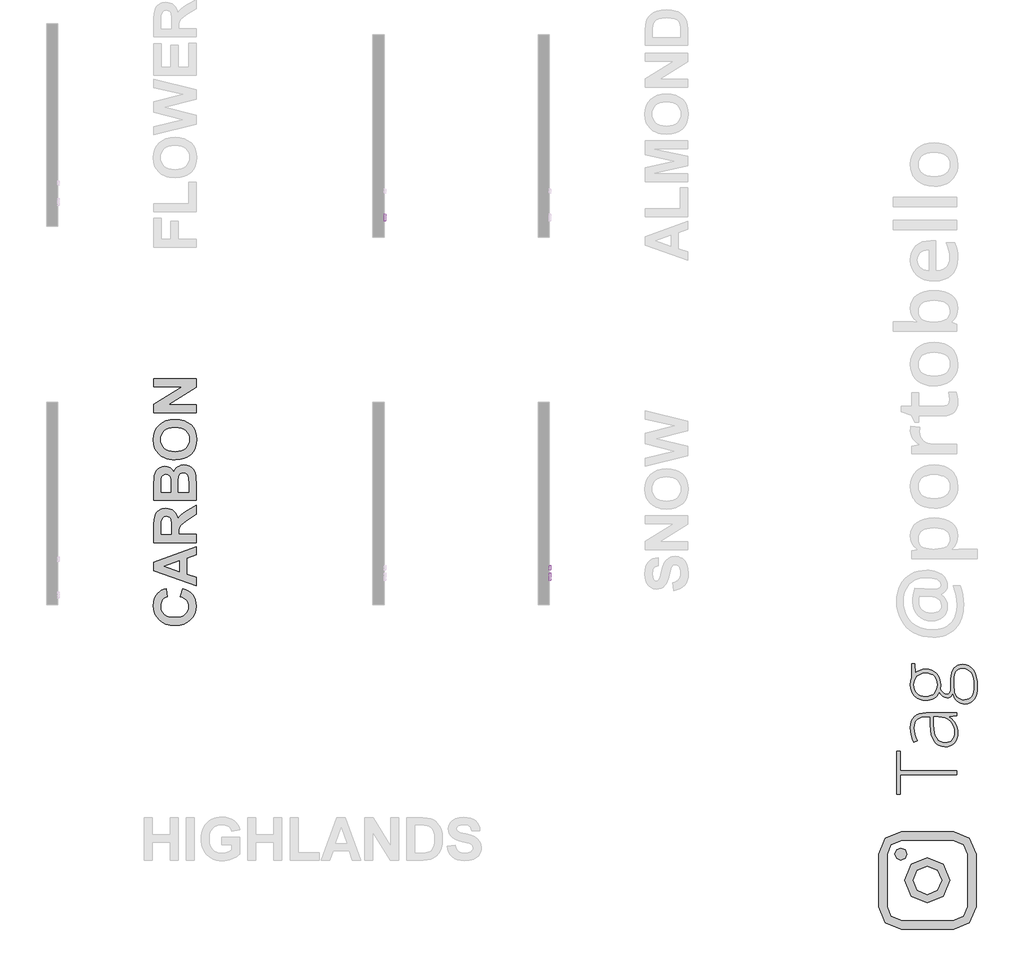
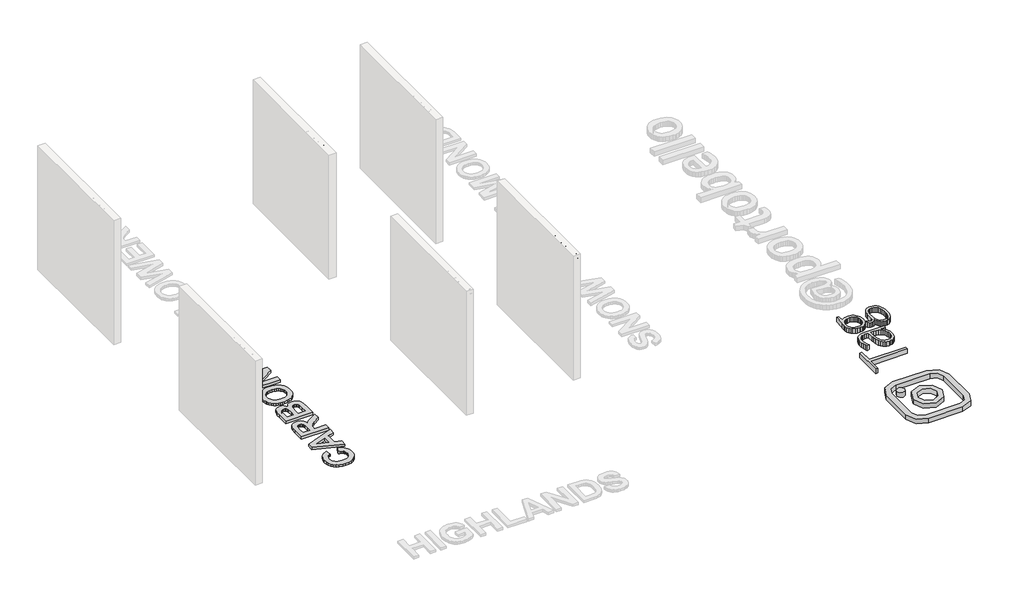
# One storey, part 4 of 10: 6 proxies.
"""IFC4 building model written with IfcOpenShell, lengths in millimetres."""

from ifc_helpers import new_model, si_unit, frame, origin, origin_with_axes, place, context, project, spatial, polyline, outline, extrude, transform, mapped, element, save
from components import generic_models_d67f6705

model = new_model("IFC4")

# Units and contexts
model_context = context("Model", 3, world=origin())
ifc_project = project(units=[si_unit("LENGTHUNIT", "METRE", prefix="MILLI")], contexts=[model_context])

# Site, building, storey
site = spatial("IfcSite", under=ifc_project)
building = spatial("IfcBuilding", under=site)
storey = spatial("IfcBuildingStorey", under=building, Name="PORTOBELLO - SHOWROOM", Elevation=0.0)

# Proxies
placement = place(None, origin())
generic_models_shape = generic_models_d67f6705(model_context)
element("IfcBuildingElementProxy", 1, Name="Blks_Instagram1 : Único 2", ObjectType="Blks_Instagram1 : Único 2", at=placement, inside=storey, context=model_context, shape_type="MappedRepresentation", body=[
    mapped(generic_models_shape, transform((-18689.4048077, -12968.2161352, 0.0), x_axis=(-1.0, 0.0, 0.0), y_axis=(0.0, -1.0, 0.0), z_axis=(0.0, 0.0, 1.0))),
])
element("IfcBuildingElementProxy", 2, Name="10mm Arial", ObjectType="10mm Arial", at=placement, inside=storey, context=model_context, shape_type="SweptSolid", body=[
    extrude(outline(polyline([(-9212.6514149, 2553.0064243), (-9200.0943761, 2553.0064243), (-9196.0476742, 2540.4371228), (-9186.1639112, 2532.4908717), (-9171.1052749, 2529.4619766), (-9157.9841504, 2531.7551077), (-9149.5106018, 2538.0581525), (-9146.7269614, 2546.4826502), (-9148.811626, 2554.3185367), (-9157.3464883, 2560.0207077), (-9175.6302235, 2564.8154363), (-9195.3119102, 2571.0081166), (-9205.9927508, 2580.3523193), (-9209.5121552, 2592.8357816), (-9205.1588849, 2607.0482894), (-9192.4424306, 2617.0792051), (-9173.8276017, 2620.5005077), (-9153.9619739, 2616.9197896), (-9140.7182221, 2606.3983645), (-9135.7395524, 2590.6775406), (-9148.2965912, 2590.6775406), (-9150.601985, 2598.1700706), (-9155.4089765, 2603.5779359), (-9173.3370924, 2607.9434689), (-9191.3142592, 2603.6269868), (-9196.9551164, 2593.2036636), (-9192.9574654, 2584.4971231), (-9172.4541756, 2577.4828397), (-9150.2341031, 2571.1797948), (-9138.0817345, 2561.0017263), (-9134.1699226, 2546.8014813), (-9138.6703457, 2531.7796332), (-9151.6197919, 2520.8167497), (-9170.6147656, 2516.9049378), (-9193.0433046, 2521.123318), (-9207.2312868, 2533.8275096), (-9212.6514149, 2553.0064243)])), frame((-23726.2609603, 0.0, 0.0), z_axis=(1.0, 0.0, 0.0), x_axis=(0.0, 1.0, 0.0)), (0.0, 0.0, 1.0), 20.0),
    extrude(outline(polyline([(-9116.9039943, 2518.4745677), (-9116.9039943, 2592.2471704), (-9104.3469555, 2592.2471704), (-9104.3469555, 2581.9464746), (-9094.7452354, 2590.8492188), (-9081.6363737, 2593.8168003), (-9069.7783107, 2591.4255673), (-9061.6849068, 2585.1470479), (-9057.9202477, 2575.9132098), (-9057.2580601, 2563.773104), (-9057.2580601, 2518.4745677), (-9069.8150989, 2518.4745677), (-9069.8150989, 2562.0808468), (-9071.2621014, 2573.1908831), (-9076.3756612, 2579.0647323), (-9084.9963626, 2581.2597615), (-9098.6202591, 2576.3301428), (-9102.9152814, 2569.1871007), (-9104.3469555, 2557.6172119), (-9104.3469555, 2518.4745677), (-9116.9039943, 2518.4745677)])), frame((-23726.2609603, 0.0, 0.0), z_axis=(1.0, 0.0, 0.0), x_axis=(0.0, 1.0, 0.0)), (0.0, 0.0, 1.0), 20.0),
    extrude(outline(polyline([(-9043.1313915, 2555.360869), (-9040.4151961, 2573.1479635), (-9032.2666099, 2585.64982), (-9022.198906, 2591.7750552), (-9010.1446393, 2593.8168003), (-8996.9530041, 2591.3305311), (-8986.4162506, 2583.8717237), (-8979.5092661, 2572.0289891), (-8977.206938, 2556.3909386), (-8981.2781654, 2534.0482388), (-8993.1362284, 2521.4053609), (-9010.1446393, 2516.9049378), (-9023.49569, 2519.3820099), (-9034.0201808, 2526.8132262), (-9040.8535888, 2538.9042811), (-9043.1313915, 2555.360869)]), holes=[polyline([(-9030.5743528, 2555.3853945), (-9029.1212189, 2544.0209065), (-9024.7618172, 2535.924437), (-9018.201255, 2531.0775917), (-9010.1446393, 2529.4619766), (-9002.1248118, 2531.0867887), (-8995.5765123, 2535.9612252), (-8991.2171106, 2544.1649937), (-8989.7639768, 2555.777802), (-8991.2263077, 2566.8111961), (-8995.6133005, 2574.7973011), (-9002.170797, 2579.6441464), (-9010.1446393, 2581.2597615), (-9018.201255, 2579.6502778), (-9024.7618172, 2574.8218266), (-9029.1212189, 2566.7437511), (-9030.5743528, 2555.3853945)])]), frame((-23726.2609603, 0.0, 0.0), z_axis=(1.0, 0.0, 0.0), x_axis=(0.0, 1.0, 0.0)), (0.0, 0.0, 1.0), 20.0),
    extrude(outline(polyline([(-8950.8420617, 2518.4745677), (-8973.2828634, 2592.2471704), (-8960.2353153, 2592.2471704), (-8947.5065982, 2549.204977), (-8943.705151, 2533.8275096), (-8940.5904167, 2548.6408913), (-8930.4613991, 2592.2471704), (-8915.5008647, 2592.2471704), (-8905.420898, 2548.7635186), (-8902.6495203, 2535.3480885), (-8898.6763948, 2549.4992826), (-8885.9231523, 2592.2471704), (-8872.8265532, 2592.2471704), (-8895.4390332, 2518.4745677), (-8910.6202969, 2518.4745677), (-8920.2588051, 2561.7374903), (-8923.0547083, 2575.2264968), (-8935.4891197, 2518.4745677), (-8950.8420617, 2518.4745677)])), frame((-23726.2609603, 0.0, 0.0), z_axis=(1.0, 0.0, 0.0), x_axis=(0.0, 1.0, 0.0)), (0.0, 0.0, 1.0), 20.0),
])
element("IfcBuildingElementProxy", 3, Name="10mm Arial", ObjectType="10mm Arial", at=placement, inside=storey, context=model_context, shape_type="SweptSolid", body=[
    extrude(outline(polyline([(-4319.6411728, 2518.4745677), (-4279.5420353, 2618.9308778), (-4268.848932, 2618.9308778), (-4228.7497945, 2518.4745677), (-4242.0180718, 2518.4745677), (-4253.5205155, 2549.8671646), (-4294.8949773, 2549.8671646), (-4306.3728955, 2518.4745677), (-4319.6411728, 2518.4745677)]), holes=[polyline([(-4290.2841896, 2562.4242034), (-4258.1067778, 2562.4242034), (-4267.1566748, 2587.121348), (-4274.1954837, 2606.373839), (-4280.4494776, 2589.279589), (-4290.2841896, 2562.4242034)])]), frame((-25926.2609603, 0.0, 0.0), z_axis=(1.0, 0.0, 0.0), x_axis=(0.0, 1.0, 0.0)), (0.0, 0.0, 1.0), 20.0),
    extrude(outline(polyline([(-25906.2609603, -4204.3469555), (-25906.2609603, -4216.9039943), (-25926.2609603, -4216.9039943), (-25926.2609603, -4204.3469555), (-25906.2609603, -4204.3469555)])), frame((0.0, 0.0, 2518.4745677), z_axis=(0.0, 0.0, 1.0), x_axis=(1.0, 0.0, 0.0)), (0.0, 0.0, 1.0), 100.4563101),
    extrude(outline(polyline([(-4185.5113974, 2518.4745677), (-4185.5113974, 2592.2471704), (-4172.9543586, 2592.2471704), (-4172.9543586, 2580.1070646), (-4164.3213944, 2590.0521412), (-4152.0341358, 2593.8168003), (-4139.4525716, 2589.9785648), (-4132.5363901, 2579.2241478), (-4122.7384663, 2590.1686372), (-4110.3653685, 2593.8168003), (-4100.9261296, 2592.299287), (-4093.9455688, 2587.7467474), (-4089.6321524, 2580.0365539), (-4088.1943469, 2569.0460793), (-4088.1943469, 2518.4745677), (-4100.7513857, 2518.4745677), (-4100.7513857, 2563.6504767), (-4101.9163453, 2574.1351135), (-4106.1347255, 2579.2977242), (-4113.3084244, 2581.2597615), (-4125.6569968, 2576.2320409), (-4129.3450138, 2569.6898728), (-4130.5743528, 2560.1188095), (-4130.5743528, 2518.4745677), (-4143.1313915, 2518.4745677), (-4143.1313915, 2565.0484283), (-4146.0376593, 2577.2130596), (-4155.565803, 2581.2597615), (-4164.8609547, 2578.5619602), (-4171.0413722, 2570.66476), (-4172.9543586, 2555.6797001), (-4172.9543586, 2518.4745677), (-4185.5113974, 2518.4745677)])), frame((-25926.2609603, 0.0, 0.0), z_axis=(1.0, 0.0, 0.0), x_axis=(0.0, 1.0, 0.0)), (0.0, 0.0, 1.0), 20.0),
    extrude(outline(polyline([(-4072.4980485, 2555.360869), (-4069.7818531, 2573.1479635), (-4061.6332669, 2585.64982), (-4051.5655629, 2591.7750552), (-4039.5112962, 2593.8168003), (-4026.319661, 2591.3305311), (-4015.7829075, 2583.8717237), (-4008.8759231, 2572.0289891), (-4006.5735949, 2556.3909386), (-4010.6448223, 2534.0482388), (-4022.5028853, 2521.4053609), (-4039.5112962, 2516.9049378), (-4052.862347, 2519.3820099), (-4063.3868377, 2526.8132262), (-4070.2202458, 2538.9042811), (-4072.4980485, 2555.360869)]), holes=[polyline([(-4059.9410097, 2555.3853945), (-4058.4878758, 2544.0209065), (-4054.1284742, 2535.924437), (-4047.5679119, 2531.0775917), (-4039.5112962, 2529.4619766), (-4031.4914687, 2531.0867887), (-4024.9431692, 2535.9612252), (-4020.5837676, 2544.1649937), (-4019.1306337, 2555.777802), (-4020.5929646, 2566.8111961), (-4024.9799574, 2574.7973011), (-4031.537454, 2579.6441464), (-4039.5112962, 2581.2597615), (-4047.5679119, 2579.6502778), (-4054.1284742, 2574.8218266), (-4058.4878758, 2566.7437511), (-4059.9410097, 2555.3853945)])]), frame((-25926.2609603, 0.0, 0.0), z_axis=(1.0, 0.0, 0.0), x_axis=(0.0, 1.0, 0.0)), (0.0, 0.0, 1.0), 20.0),
    extrude(outline(polyline([(-3992.4469263, 2518.4745677), (-3992.4469263, 2592.2471704), (-3979.8898875, 2592.2471704), (-3979.8898875, 2581.9464746), (-3970.2881675, 2590.8492188), (-3957.1793057, 2593.8168003), (-3945.3212427, 2591.4255673), (-3937.2278388, 2585.1470479), (-3933.4631797, 2575.9132098), (-3932.8009921, 2563.773104), (-3932.8009921, 2518.4745677), (-3945.3580309, 2518.4745677), (-3945.3580309, 2562.0808468), (-3946.8050334, 2573.1908831), (-3951.9185932, 2579.0647323), (-3960.5392946, 2581.2597615), (-3974.1631911, 2576.3301428), (-3978.4582134, 2569.1871007), (-3979.8898875, 2557.6172119), (-3979.8898875, 2518.4745677), (-3992.4469263, 2518.4745677)])), frame((-25926.2609603, 0.0, 0.0), z_axis=(1.0, 0.0, 0.0), x_axis=(0.0, 1.0, 0.0)), (0.0, 0.0, 1.0), 20.0),
    extrude(outline(polyline([(-3870.0157983, 2518.4745677), (-3870.0157983, 2530.3203679), (-3878.3238, 2520.2587953), (-3889.8078496, 2516.9049378), (-3905.3569953, 2521.7609802), (-3916.3444042, 2535.3113003), (-3920.2439534, 2555.2872926), (-3916.6509726, 2575.2755477), (-3905.8842928, 2589.0343343), (-3889.8569006, 2593.8168003), (-3878.2808805, 2590.3954977), (-3870.0157983, 2581.5050162), (-3870.0157983, 2618.9308778), (-3857.4587595, 2618.9308778), (-3857.4587595, 2518.4745677), (-3870.0157983, 2518.4745677)]), holes=[polyline([(-3907.6869146, 2555.3363436), (-3906.2705689, 2543.977987), (-3902.0215319, 2535.8999115), (-3895.8472457, 2531.0714603), (-3888.6551527, 2529.4619766), (-3881.4661254, 2530.9978839), (-3875.4481891, 2535.6056059), (-3871.373896, 2543.3709817), (-3870.0157983, 2554.3798504), (-3871.3984215, 2566.415723), (-3875.546291, 2574.7605129), (-3881.7175114, 2579.6349494), (-3889.1701875, 2581.2597615), (-3896.4358569, 2579.6993287), (-3902.3894139, 2575.0180303), (-3906.3625394, 2566.976743), (-3907.6869146, 2555.3363436)])]), frame((-25926.2609603, 0.0, 0.0), z_axis=(1.0, 0.0, 0.0), x_axis=(0.0, 1.0, 0.0)), (0.0, 0.0, 1.0), 20.0),
])
element("IfcBuildingElementProxy", 4, Name="10mm Arial Narrow", ObjectType="10mm Arial Narrow", at=placement, inside=storey, context=model_context, shape_type="SweptSolid", body=[
    extrude(outline(polyline([(-8835.6286257, 2518.4745677), (-8835.6286257, 2619.1931714), (-8804.3317411, 2619.1931714), (-8788.0360395, 2617.3148507), (-8776.5630534, 2607.8344075), (-8772.273375, 2590.8152987), (-8774.0596834, 2578.7394731), (-8779.4186086, 2569.1130794), (-8789.1623974, 2562.811821), (-8804.1032966, 2560.7114015), (-8825.8816641, 2560.7114015), (-8825.8816641, 2518.4745677), (-8835.6286257, 2518.4745677)]), holes=[polyline([(-8825.8816641, 2572.0828568), (-8802.9103091, 2572.0828568), (-8787.0461137, 2576.613671), (-8782.0203366, 2590.2822617), (-8784.4951511, 2600.4480381), (-8790.47278, 2606.247988), (-8803.1387536, 2607.8217162), (-8825.8816641, 2607.8217162), (-8825.8816641, 2572.0828568)])]), frame((-23726.2609603, 0.0, 0.0), z_axis=(1.0, 0.0, 0.0), x_axis=(0.0, 1.0, 0.0)), (0.0, 0.0, 1.0), 20.0),
    extrude(outline(polyline([(-8764.1509069, 2555.0256739), (-8762.1964381, 2571.6164494), (-8756.3330315, 2583.5685342), (-8747.4744647, 2590.7930888), (-8736.5345156, 2593.2012737), (-8725.72148, 2590.7930888), (-8716.8375306, 2583.5685342), (-8710.8979758, 2571.8068198), (-8708.9181242, 2555.7871552), (-8710.8630746, 2538.6252687), (-8716.6979257, 2526.4828135), (-8725.5469739, 2519.2582589), (-8736.5345156, 2516.8500741), (-8747.3951438, 2519.2646046), (-8756.2695747, 2526.5081962), (-8762.1805739, 2538.4666267), (-8764.1509069, 2555.0256739)]), holes=[polyline([(-8754.4039453, 2555.0510566), (-8753.0999084, 2542.4993052), (-8749.1877978, 2533.6280471), (-8743.3466011, 2528.3547886), (-8736.2553058, 2526.5970357), (-8729.5352326, 2528.3706528), (-8723.8431593, 2533.6915039), (-8719.9596042, 2542.5786262), (-8718.6650859, 2555.0510566), (-8719.9691228, 2567.5647339), (-8723.8812333, 2576.4233006), (-8729.7224301, 2581.6965592), (-8736.8137254, 2583.454312), (-8743.5813912, 2581.6870407), (-8749.263946, 2576.3852265), (-8753.1189455, 2567.5171413), (-8754.4039453, 2555.0510566)])]), frame((-23726.2609603, 0.0, 0.0), z_axis=(1.0, 0.0, 0.0), x_axis=(0.0, 1.0, 0.0)), (0.0, 0.0, 1.0), 20.0),
    extrude(outline(polyline([(-8637.4404054, 2526.5970357), (-8635.8159118, 2516.8500741), (-8643.1768985, 2516.8500741), (-8651.4516628, 2518.9695306), (-8655.766724, 2524.7694804), (-8656.9343288, 2539.4153056), (-8656.9343288, 2581.8298184), (-8665.0567968, 2581.8298184), (-8665.0567968, 2585.0788056), (-8666.6812904, 2580.2053248), (-8674.2453388, 2581.8298184), (-8680.3244985, 2579.5073002), (-8684.1953621, 2573.0220171), (-8686.1752137, 2557.6147106), (-8686.1752137, 2518.4745677), (-8695.9221754, 2518.4745677), (-8695.9221754, 2591.5767801), (-8686.1752137, 2591.5767801), (-8686.1752137, 2581.8805838), (-8679.9310664, 2590.967595), (-8673.5346228, 2593.2012737), (-8665.0567968, 2591.5767801), (-8656.9343288, 2591.5767801), (-8656.9343288, 2607.8217162), (-8647.1873671, 2615.9441842), (-8647.1873671, 2591.5767801), (-8637.4404054, 2591.5767801), (-8637.4404054, 2581.8298184), (-8647.1873671, 2581.8298184), (-8647.1873671, 2537.1816269), (-8646.3243549, 2529.1860724), (-8641.7047012, 2526.5970357), (-8637.4404054, 2526.5970357)])), frame((-23726.2609603, 0.0, 0.0), z_axis=(1.0, 0.0, 0.0), x_axis=(0.0, 1.0, 0.0)), (0.0, 0.0, 1.0), 20.0),
    extrude(outline(polyline([(-8630.942431, 2555.0256739), (-8628.9879621, 2571.6164494), (-8623.1245555, 2583.5685342), (-8614.2659888, 2590.7930888), (-8603.3260397, 2593.2012737), (-8592.5130041, 2590.7930888), (-8583.6290547, 2583.5685342), (-8577.6894999, 2571.8068198), (-8575.7096483, 2555.7871552), (-8577.6545987, 2538.6252687), (-8583.4894497, 2526.4828135), (-8592.3384979, 2519.2582589), (-8603.3260397, 2516.8500741), (-8614.1866678, 2519.2646046), (-8623.0610987, 2526.5081962), (-8628.9720979, 2538.4666267), (-8630.942431, 2555.0256739)]), holes=[polyline([(-8621.1954694, 2555.0510566), (-8619.8914325, 2542.4993052), (-8615.9793219, 2533.6280471), (-8610.1381252, 2528.3547886), (-8603.0468298, 2526.5970357), (-8596.3267567, 2528.3706528), (-8590.6346833, 2533.6915039), (-8586.7511283, 2542.5786262), (-8585.45661, 2555.0510566), (-8586.7606468, 2567.5647339), (-8590.6727574, 2576.4233006), (-8596.5139542, 2581.6965592), (-8603.6052495, 2583.454312), (-8610.3729153, 2581.6870407), (-8616.05547, 2576.3852265), (-8619.9104695, 2567.5171413), (-8621.1954694, 2555.0510566)])]), frame((-23726.2609603, 0.0, 0.0), z_axis=(1.0, 0.0, 0.0), x_axis=(0.0, 1.0, 0.0)), (0.0, 0.0, 1.0), 20.0),
    extrude(outline(polyline([(-8552.9667378, 2518.4745677), (-8562.7136994, 2518.4745677), (-8562.7136994, 2619.1931714), (-8552.9667378, 2619.1931714), (-8552.9667378, 2583.7842873), (-8545.5676771, 2590.8660641), (-8536.3664437, 2593.2012737), (-8523.4847171, 2589.0004347), (-8514.2073356, 2576.2710043), (-8510.729904, 2555.5840935), (-8512.662163, 2539.1297501), (-8518.45894, 2526.927011), (-8526.8320623, 2519.3693083), (-8536.4933573, 2516.8500741), (-8545.8341955, 2519.4644935), (-8552.9667378, 2527.2316035), (-8552.9667378, 2518.4745677)]), holes=[polyline([(-8552.9667378, 2555.5840935), (-8550.8853553, 2538.3365403), (-8544.996566, 2529.6048872), (-8536.5441227, 2526.5970357), (-8530.6013951, 2528.3865169), (-8525.3630378, 2533.7549607), (-8520.4768656, 2555.1779701), (-8525.1853588, 2576.613671), (-8530.4300618, 2581.7441518), (-8536.7471844, 2583.454312), (-8542.7248132, 2581.6648308), (-8548.0171088, 2576.2963871), (-8552.9667378, 2555.5840935)])]), frame((-23726.2609603, 0.0, 0.0), z_axis=(1.0, 0.0, 0.0), x_axis=(0.0, 1.0, 0.0)), (0.0, 0.0, 1.0), 20.0),
    extrude(outline(polyline([(-8458.7461085, 2541.2174782), (-8448.9991468, 2539.5929846), (-8452.6986772, 2529.706418), (-8458.5176641, 2522.5865671), (-8466.2213173, 2518.2841973), (-8475.5748469, 2516.8500741), (-8487.1684009, 2519.2646046), (-8496.3125232, 2526.5081962), (-8502.2520779, 2538.3143304), (-8504.2319295, 2554.4164888), (-8502.2425594, 2571.0834124), (-8496.2744491, 2583.2639417), (-8487.2604133, 2590.7169407), (-8476.1332666, 2593.2012737), (-8465.4503174, 2590.8026073), (-8456.7028001, 2583.6066083), (-8450.867949, 2571.8671037), (-8448.9229987, 2555.8379207), (-8448.9991468, 2552.5889335), (-8494.4849679, 2552.5889335), (-8488.4819563, 2533.1457756), (-8482.5519201, 2528.2342207), (-8475.4479334, 2526.5970357), (-8465.2694656, 2530.2521463), (-8458.7461085, 2541.2174782)]), holes=[polyline([(-8493.8250173, 2562.3358951), (-8458.7461085, 2562.3358951), (-8463.0104042, 2576.6009796), (-8468.8357367, 2581.7409789), (-8476.0571185, 2583.454312), (-8488.2662033, 2577.7432017), (-8493.8250173, 2562.3358951)])]), frame((-23726.2609603, 0.0, 0.0), z_axis=(1.0, 0.0, 0.0), x_axis=(0.0, 1.0, 0.0)), (0.0, 0.0, 1.0), 20.0),
    extrude(outline(polyline([(-23706.2609603, -8426.2562363), (-23706.2609603, -8436.0031979), (-23726.2609603, -8436.0031979), (-23726.2609603, -8426.2562363), (-23706.2609603, -8426.2562363)])), frame((0.0, 0.0, 2518.4745677), z_axis=(0.0, 0.0, 1.0), x_axis=(1.0, 0.0, 0.0)), (0.0, 0.0, 1.0), 100.7186038),
    extrude(outline(polyline([(-23706.2609603, -8400.2643385), (-23706.2609603, -8410.0113002), (-23726.2609603, -8410.0113002), (-23726.2609603, -8400.2643385), (-23706.2609603, -8400.2643385)])), frame((0.0, 0.0, 2518.4745677), z_axis=(0.0, 0.0, 1.0), x_axis=(1.0, 0.0, 0.0)), (0.0, 0.0, 1.0), 100.7186038),
    extrude(outline(polyline([(-8388.8928833, 2555.0256739), (-8386.9384144, 2571.6164494), (-8381.0750078, 2583.5685342), (-8372.2164411, 2590.7930888), (-8361.2764919, 2593.2012737), (-8350.4634563, 2590.7930888), (-8341.5795069, 2583.5685342), (-8335.6399522, 2571.8068198), (-8333.6601006, 2555.7871552), (-8335.6050509, 2538.6252687), (-8341.439902, 2526.4828135), (-8350.2889502, 2519.2582589), (-8361.2764919, 2516.8500741), (-8372.1371201, 2519.2646046), (-8381.011551, 2526.5081962), (-8386.9225502, 2538.4666267), (-8388.8928833, 2555.0256739)]), holes=[polyline([(-8379.1459216, 2555.0510566), (-8377.8418848, 2542.4993052), (-8373.9297742, 2533.6280471), (-8368.0885774, 2528.3547886), (-8360.9972821, 2526.5970357), (-8354.2772089, 2528.3706528), (-8348.5851356, 2533.6915039), (-8344.7015806, 2542.5786262), (-8343.4070622, 2555.0510566), (-8344.7110991, 2567.5647339), (-8348.6232097, 2576.4233006), (-8354.4644064, 2581.6965592), (-8361.5557018, 2583.454312), (-8368.3233675, 2581.6870407), (-8374.0059223, 2576.3852265), (-8377.8609218, 2567.5171413), (-8379.1459216, 2555.0510566)])]), frame((-23726.2609603, 0.0, 0.0), z_axis=(1.0, 0.0, 0.0), x_axis=(0.0, 1.0, 0.0)), (0.0, 0.0, 1.0), 20.0),
])
element("IfcBuildingElementProxy", 5, Name="550mm Arial", ObjectType="550mm Arial", at=placement, inside=storey, context=model_context, shape_type="SweptSolid", body=[
    extrude(outline(polyline([(-28646.6512736, -9187.8497466), (-28611.0231676, -9080.9654285), (-28568.7626322, -9095.7263894), (-28532.3038416, -9114.6799155), (-28501.6467957, -9137.8260069), (-28476.7914947, -9165.1646634), (-28457.5813697, -9196.5828077), (-28443.8598518, -9231.9673622), (-28435.626941, -9271.318327), (-28432.8826375, -9314.635702), (-28437.571004, -9368.1561455), (-28451.6361034, -9416.683783), (-28475.0779359, -9460.2186148), (-28507.8965013, -9498.7606406), (-28548.8479474, -9530.3005606), (-28596.6884218, -9552.8290749), (-28651.4179246, -9566.3461835), (-28713.0364556, -9570.8518864), (-28778.0125181, -9566.3070413), (-28835.2993116, -9552.6725061), (-28884.8968362, -9529.9482808), (-28926.8050918, -9498.1343653), (-28960.1107602, -9458.9095254), (-28983.9005234, -9413.9525269), (-28998.1743813, -9363.2633697), (-29002.932334, -9306.8420538), (-28999.0094151, -9257.5054773), (-28987.2406583, -9213.0399309), (-28967.6260638, -9173.4454146), (-28940.1656315, -9138.7219285), (-28919.6290206, -9120.6556257), (-28895.0390168, -9105.0074414), (-28866.39562, -9091.7773757), (-28833.6988303, -9080.9654285), (-28815.8847773, -9187.8497466), (-28835.4602296, -9194.5865552), (-28852.8524166, -9204.2198871), (-28868.0613383, -9216.7497422), (-28881.0869948, -9232.1761207), (-28891.5292656, -9249.9597297), (-28898.9880305, -9269.5612768), (-28903.4632894, -9290.980762), (-28904.9550424, -9314.2181851), (-28902.2455319, -9345.979911), (-28894.1170003, -9374.6015621), (-28880.5694478, -9400.0831384), (-28861.6028743, -9422.42464), (-28836.5736079, -9440.5996711), (-28804.8379768, -9453.5818362), (-28766.3959811, -9461.3711353), (-28721.2476206, -9463.9675683), (-28673.4593359, -9461.4494197), (-28633.0819755, -9453.8949739), (-28600.1155395, -9441.3042308), (-28574.5600279, -9423.6771906), (-28555.4412346, -9402.0141539), (-28541.7849538, -9377.3154217), (-28533.5911852, -9349.580994), (-28530.8599291, -9318.8108707), (-28532.6039318, -9295.9039817), (-28537.83594, -9274.6410654), (-28546.5559538, -9255.0221218), (-28558.763973, -9237.0471508), (-28574.7209458, -9221.1075745), (-28594.6878202, -9207.5948151), (-28618.6645961, -9196.5088724), (-28646.6512736, -9187.8497466)])), origin_with_axes(), (0.0, 0.0, 1.0), 50.0),
    extrude(outline(polyline([(-28432.8826375, -8519.8227585), (-28432.8826375, -8632.1347959), (-28557.5810086, -8676.1132392), (-28557.5810086, -8888.0726357), (-28432.8826375, -8931.4943899), (-28432.8826375, -9045.3373224), (-28994.0253074, -8840.4757128), (-28994.0253074, -8726.6327802), (-28432.8826375, -8519.8227585)]), holes=[polyline([(-28655.5583002, -8710.3496224), (-28860.4199098, -8782.5800405), (-28655.5583002, -8853.8362525), (-28655.5583002, -8710.3496224)])]), origin_with_axes(), (0.0, 0.0, 1.0), 50.0),
    extrude(outline(polyline([(-28432.8826375, -8466.3805994), (-28994.0253074, -8466.3805994), (-28994.0253074, -8230.344397), (-28990.2328626, -8153.4517072), (-28978.8555279, -8100.9141681), (-28969.7919326, -8081.7431852), (-28957.7709261, -8064.5902006), (-28942.7925085, -8049.4552141), (-28924.8566797, -8036.3382259), (-28904.7375857, -8025.7437354), (-28883.2093722, -8018.1762421), (-28860.2720393, -8013.6357462), (-28835.9255869, -8012.1222476), (-28805.5773296, -8014.309862), (-28777.9951216, -8020.8727052), (-28753.1789627, -8031.8107773), (-28731.1288532, -8047.1240783), (-28712.3753872, -8066.7952115), (-28697.4491592, -8090.8067806), (-28686.3501691, -8119.1587853), (-28679.078417, -8151.8512259), (-28656.7412646, -8120.8505985), (-28632.3165279, -8095.7647934), (-28596.9319733, -8069.8091614), (-28541.7153676, -8036.1990536), (-28432.8826375, -7967.587115), (-28432.8826375, -8092.4246584), (-28561.0603158, -8173.7012753), (-28637.1179718, -8237.5117699), (-28650.3219428, -8255.2214437), (-28658.6200905, -8273.9749097), (-28663.0040176, -8298.8693529), (-28664.4653267, -8335.0019585), (-28664.4653267, -8359.4962814), (-28432.8826375, -8359.4962814), (-28432.8826375, -8466.3805994)]), holes=[polyline([(-28762.4426182, -8359.4962814), (-28762.4426182, -8271.4002223), (-28764.0604961, -8201.8662673), (-28768.9141297, -8164.4463181), (-28777.716777, -8145.4145075), (-28791.181696, -8131.0449687), (-28808.9435594, -8122.0161664), (-28830.6370399, -8119.0065656), (-28854.6616564, -8122.9729759), (-28873.5716912, -8134.8722066), (-28886.9148344, -8154.0083964), (-28894.2387761, -8179.6856837), (-28896.0480159, -8266.5291922), (-28896.0480159, -8359.4962814), (-28762.4426182, -8359.4962814)])]), origin_with_axes(), (0.0, 0.0, 1.0), 50.0),
    extrude(outline(polyline([(-28994.0253074, -7905.2379295), (-28994.0253074, -7674.9077909), (-28992.6335846, -7615.2550684), (-28988.4584159, -7572.964089), (-28979.8471305, -7541.1284279), (-28965.1470574, -7512.8416601), (-28944.4799725, -7488.5386991), (-28917.9676514, -7468.6544583), (-28886.740869, -7455.3982978), (-28851.9304002, -7450.9795776), (-28814.0059514, -7456.250728), (-28779.2824652, -7472.0641794), (-28750.299836, -7496.9238295), (-28729.597958, -7529.3335764), (-28720.8475003, -7507.5009235), (-28709.4875622, -7488.3473372), (-28695.5181437, -7471.8728175), (-28678.9392447, -7458.0773643), (-28660.2640632, -7447.1784344), (-28640.0057968, -7439.3934845), (-28618.1644457, -7434.7225146), (-28594.7400098, -7433.1655246), (-28557.1460952, -7437.6364344), (-28520.6307658, -7451.0491637), (-28488.2732086, -7472.2033517), (-28463.1526104, -7499.8986372), (-28445.7734708, -7534.4655546), (-28436.6402893, -7576.2346378), (-28432.8826375, -7713.458515), (-28432.8826375, -7905.2379295), (-28994.0253074, -7905.2379295)]), holes=[polyline([(-28673.3723532, -7798.3536114), (-28530.8599291, -7798.3536114), (-28530.8599291, -7685.3457126), (-28534.200064, -7601.5639945), (-28541.663178, -7576.8261201), (-28555.4238381, -7557.1680342), (-28575.2036997, -7544.3293905), (-28600.7244182, -7540.0498427), (-28622.8528122, -7543.3551845), (-28641.3627267, -7553.2712101), (-28655.8018517, -7569.4151957), (-28665.7178773, -7591.4044174), (-28671.4587342, -7630.9293475), (-28673.3723532, -7699.6804583), (-28673.3723532, -7798.3536114)]), polyline([(-28896.0480159, -7798.3536114), (-28771.3496448, -7798.3536114), (-28771.3496448, -7716.7986499), (-28773.1588845, -7626.3366619), (-28779.665189, -7597.8585323), (-28792.5038327, -7576.1650517), (-28811.0485402, -7562.4391847), (-28834.6730363, -7557.8638957), (-28857.2711368, -7561.8129094), (-28875.2417586, -7573.6599505), (-28887.8194543, -7593.2658467), (-28894.2387761, -7620.4914258), (-28896.0480159, -7726.8190547), (-28896.0480159, -7798.3536114)])]), origin_with_axes(), (0.0, 0.0, 1.0), 50.0),
    extrude(outline(polyline([(-28709.9746652, -7361.9093125), (-28751.0478871, -7360.334926), (-28788.6765948, -7355.6117664), (-28822.8607883, -7347.7398338), (-28853.6004677, -7336.7191282), (-28894.1517934, -7314.5037515), (-28930.3539851, -7285.4341396), (-28959.9802862, -7251.3891184), (-28980.80394, -7214.2475137), (-28990.4851123, -7187.5090376), (-28997.4002355, -7158.7873564), (-29002.932334, -7095.3943787), (-28998.1352391, -7037.550896), (-28983.7439546, -6985.796201), (-28959.7584804, -6940.1302936), (-28926.1788165, -6900.5531739), (-28884.0574533, -6868.5870387), (-28834.4468814, -6845.754085), (-28777.3471006, -6832.0543128), (-28712.758111, -6827.4877221), (-28648.608384, -6832.0195197), (-28591.8521848, -6845.6149127), (-28542.4895135, -6868.2739011), (-28500.52037, -6899.9964847), (-28467.0320379, -6939.3126564), (-28443.1118007, -6984.7524088), (-28428.7596584, -7036.315742), (-28423.975611, -7094.0026558), (-28428.7379127, -7152.2984485), (-28443.024818, -7204.296695), (-28466.8363269, -7249.9973955), (-28500.1724393, -7289.4005498), (-28541.858889, -7321.1231335), (-28590.7214099, -7343.7821218), (-28646.760002, -7357.3775148), (-28709.9746652, -7361.9093125)]), holes=[polyline([(-28713.8714893, -7255.0249944), (-28669.4842273, -7252.1850099), (-28630.8204258, -7243.6650563), (-28597.8800846, -7229.4651337), (-28570.6632038, -7209.585242), (-28549.352447, -7185.3301215), (-28534.1304778, -7158.0045123), (-28524.9972964, -7127.6084145), (-28521.9529025, -7094.1418281), (-28524.9755507, -7060.7100348), (-28534.0434952, -7030.4183162), (-28549.1567359, -7003.2666724), (-28570.315273, -6979.2551034), (-28597.5191064, -6959.6187632), (-28630.7682361, -6945.592806), (-28670.0626622, -6937.1772316), (-28715.4023845, -6934.3720401), (-28760.1114824, -6937.1032963), (-28798.7665857, -6945.2970648), (-28831.3676945, -6958.9533457), (-28857.9148086, -6978.0721389), (-28878.4949109, -7001.7140316), (-28893.1949839, -7028.9396106), (-28902.0150278, -7059.7488762), (-28904.9550424, -7094.1418281), (-28901.9802347, -7128.5695732), (-28893.0558116, -7159.4832179), (-28878.1817732, -7186.8827623), (-28857.3581195, -7210.7682065), (-28830.541359, -7230.1305512), (-28797.6880005, -7243.9607974), (-28758.7980439, -7252.2589452), (-28713.8714893, -7255.0249944)])]), origin_with_axes(), (0.0, 0.0, 1.0), 50.0),
    extrude(outline(polyline([(-28432.8826375, -6738.417457), (-28994.0253074, -6738.417457), (-28994.0253074, -6626.3837642), (-28616.3117146, -6391.0434232), (-28994.0253074, -6391.0434232), (-28994.0253074, -6284.1591051), (-28432.8826375, -6284.1591051), (-28432.8826375, -6399.6721051), (-28805.0293387, -6631.5331389), (-28432.8826375, -6631.5331389), (-28432.8826375, -6738.417457)])), origin_with_axes(), (0.0, 0.0, 1.0), 50.0),
])
element("IfcBuildingElementProxy", 6, Name="80mm OpenSans Light", ObjectType="80mm OpenSans Light", at=placement, inside=storey, context=model_context, shape_type="SweptSolid", body=[
    extrude(outline(polyline([(-18297.691823, -11506.7201953), (-18297.691823, -11563.206342), (-19051.4814236, -11563.206342), (-19051.4814236, -11821.8407841), (-19097.6318073, -11821.8407841), (-19097.6318073, -11248.3261198), (-19051.4814236, -11248.3261198), (-19051.4814236, -11506.7201953), (-18297.691823, -11506.7201953)])), origin_with_axes(), (0.0, 0.0, 1.0), 100.0),
    extrude(outline(polyline([(-18297.691823, -10776.7268863), (-18393.3577225, -10790.4277814), (-18393.3577225, -10794.7543799), (-18365.1822523, -10817.6267625), (-18341.4685867, -10840.8146262), (-18322.2167258, -10864.317971), (-18307.4266695, -10888.136797), (-18296.4374099, -10913.2025246), (-18288.5879387, -10940.4465743), (-18283.878256, -10969.8689462), (-18282.3083617, -11001.4696403), (-18285.2002722, -11043.3535172), (-18293.8760035, -11080.3098791), (-18308.3355557, -11112.3387262), (-18328.5789287, -11139.4400583), (-18353.9300917, -11160.9979361), (-18383.7130134, -11176.3964202), (-18417.9276941, -11185.6355107), (-18456.5741336, -11188.7152075), (-18498.796026, -11184.1257081), (-18536.0453347, -11170.3572098), (-18568.3220598, -11147.4097127), (-18595.6262012, -11115.2832168), (-18617.5220945, -11074.4734781), (-18633.5740753, -11025.4762526), (-18643.7821435, -10968.2915405), (-18648.1462993, -10902.9193417), (-18651.5114314, -10788.2644822), (-18691.8930172, -10788.2644822), (-18732.5149695, -10790.4428043), (-18767.848857, -10796.9777708), (-18797.8946798, -10807.8693815), (-18822.6524377, -10823.1176366), (-18842.0019475, -10843.218292), (-18855.823026, -10868.6671038), (-18864.1156731, -10899.4640721), (-18866.8798888, -10935.6091969), (-18863.9954898, -10977.8085549), (-18855.3422928, -11020.7590585), (-18840.9202979, -11064.4607076), (-18820.729505, -11108.9135024), (-18867.8413551, -11129.3446618), (-18887.6115064, -11079.9793751), (-18901.7330431, -11030.9145466), (-18910.2059651, -10982.1501763), (-18913.0302725, -10933.6862642), (-18909.7928351, -10887.3030254), (-18900.0805229, -10847.1843406), (-18883.8933359, -10813.3302098), (-18861.2312741, -10785.7406331), (-18831.7187647, -10764.3404959), (-18794.980235, -10749.0546835), (-18751.0156849, -10739.8831962), (-18699.8251144, -10736.8260337), (-18297.691823, -10736.8260337), (-18297.691823, -10776.7268863)]), holes=[polyline([(-18328.4587455, -10998.5852413), (-18332.0266869, -10952.8254533), (-18342.7305112, -10912.1734551), (-18360.5702185, -10876.6292468), (-18385.5458086, -10846.1928284), (-18416.8610674, -10821.7956204), (-18453.7197804, -10804.3690432), (-18496.1219477, -10793.9130969), (-18544.0675694, -10790.4277814), (-18605.3610477, -10790.4277814), (-18600.7940827, -10895.9487109), (-18595.8891021, -10954.9587067), (-18587.4236916, -11004.8347724), (-18575.397851, -11045.5769081), (-18559.8115805, -11077.1851136), (-18540.0339177, -11100.846199), (-18515.4339003, -11117.7469742), (-18486.0115284, -11127.8874394), (-18451.7668019, -11131.2675945), (-18424.1847367, -11129.0967838), (-18399.8476203, -11122.5843517), (-18378.7554527, -11111.7302982), (-18360.908234, -11096.5346234), (-18346.7115828, -11077.3879229), (-18336.5711176, -11054.6807923), (-18330.4868385, -11028.4132318), (-18328.4587455, -10998.5852413)])]), origin_with_axes(), (0.0, 0.0, 1.0), 100.0),
    extrude(outline(polyline([(-18897.6468112, -10080.6252653), (-18859.1881581, -10080.6252653), (-18851.4964275, -10203.9333218), (-18819.3473972, -10182.2702836), (-18785.6359841, -10166.7966849), (-18750.3621882, -10157.5125257), (-18713.5260095, -10154.4178059), (-18670.9360558, -10157.9782359), (-18632.5825631, -10168.6595259), (-18598.4655314, -10186.4616759), (-18568.5849607, -10211.3846858), (-18544.292913, -10242.3168603), (-18526.9414504, -10278.1465039), (-18516.5305728, -10318.8736166), (-18513.0602803, -10364.4981984), (-18516.4254124, -10420.9843452), (-18498.1275064, -10449.3776476), (-18476.8851097, -10470.1393111), (-18453.4794138, -10482.8486942), (-18428.6916101, -10487.0851552), (-18404.3544937, -10481.7069529), (-18395.0252657, -10474.9842001), (-18387.5889246, -10465.5723461), (-18377.854078, -10436.7584021), (-18374.6091292, -10393.3421883), (-18374.6091292, -10289.5038249), (-18372.1453717, -10244.1271211), (-18364.7540993, -10204.3840091), (-18352.435312, -10170.2744889), (-18335.1890097, -10141.7985604), (-18313.1203529, -10119.3468193), (-18286.334502, -10103.3098615), (-18254.8314569, -10093.6876867), (-18218.6112176, -10090.4802951), (-18173.9556135, -10095.2425581), (-18134.6932347, -10109.5293468), (-18100.824081, -10133.3406613), (-18072.3481525, -10166.6765016), (-18049.7912511, -10208.8007451), (-18033.6791787, -10258.977269), (-18024.0119352, -10317.2060735), (-18020.7895207, -10383.4871584), (-18023.5462249, -10436.3302491), (-18031.8163376, -10482.8486942), (-18045.5998588, -10523.0424935), (-18064.8967885, -10556.9116472), (-18089.121233, -10583.7801242), (-18117.687299, -10602.9718934), (-18150.5949864, -10614.486955), (-18187.8442951, -10618.3253088), (-18217.8750949, -10615.9516889), (-18245.2318165, -10608.8308289), (-18269.9144599, -10596.9627289), (-18291.923025, -10580.3473889), (-18310.9570537, -10559.66084), (-18326.7160877, -10535.5791131), (-18339.2001271, -10508.1022082), (-18348.4091717, -10477.2301253), (-18361.8096087, -10501.4470584), (-18379.897194, -10520.2557435), (-18401.8306446, -10532.3341642), (-18426.7686774, -10536.3603044), (-18454.7563613, -10531.5980415), (-18481.0314333, -10517.3112528), (-18505.5938933, -10493.4999383), (-18528.4437415, -10460.164098), (-18541.1981933, -10484.7941612), (-18557.1074564, -10506.5248025), (-18576.1715309, -10525.3560219), (-18598.3904168, -10541.2878194), (-18623.0580373, -10553.9596451), (-18649.4683155, -10563.0109492), (-18677.6212514, -10568.4417317), (-18707.516845, -10570.2519925), (-18751.7292731, -10566.7216083), (-18791.3446904, -10556.1304558), (-18826.3630968, -10538.4785349), (-18856.7844923, -10513.7658458), (-18881.3920211, -10483.043992), (-18898.9688274, -10447.3645775), (-18909.5149112, -10406.7276023), (-18913.0302725, -10361.1330663), (-18909.1844072, -10309.2739763), (-18897.6468112, -10270.5148649), (-18897.6468112, -10080.6252653)]), holes=[polyline([(-18194.5745594, -10560.8776958), (-18164.6601871, -10558.0421213), (-18138.7343978, -10549.5353977), (-18116.7971915, -10535.3575251), (-18098.8485682, -10515.5085035), (-18084.8885278, -10489.9883328), (-18074.9170704, -10458.7970131), (-18068.9341959, -10421.9345443), (-18066.9399044, -10379.4009265), (-18069.3698603, -10324.6987505), (-18076.6597281, -10277.290198), (-18088.8095076, -10237.1752689), (-18105.819199, -10204.3539633), (-18127.6888022, -10178.8262812), (-18154.4183173, -10160.5922225), (-18186.0077442, -10149.6517873), (-18222.4570829, -10146.0049756), (-18248.4241852, -10148.2884581), (-18270.5604451, -10155.1389057), (-18288.8658626, -10166.5563183), (-18303.3404376, -10182.540696), (-18314.3296973, -10203.6328635), (-18322.1791685, -10230.3736458), (-18326.8888512, -10262.7630427), (-18328.4587455, -10300.8010542), (-18328.4587455, -10397.9091533), (-18326.366805, -10436.1049055), (-18320.0909838, -10469.2078906), (-18309.6312818, -10497.2181089), (-18294.9876989, -10520.1355602), (-18276.1602353, -10537.9602445), (-18253.1488908, -10550.6921619), (-18225.9536655, -10558.3313123), (-18194.5745594, -10560.8776958)]), polyline([(-18708.2379447, -10515.2080452), (-18674.7744097, -10512.6015701), (-18645.2919461, -10504.7821448), (-18619.7905541, -10491.7497691), (-18598.2702336, -10473.5044433), (-18581.1816719, -10450.9024731), (-18568.9755564, -10424.8001647), (-18561.6518871, -10395.1975178), (-18559.210664, -10362.0945326), (-18561.6368642, -10327.2413783), (-18568.9154647, -10296.7148224), (-18581.0464657, -10270.5148649), (-18598.029867, -10248.641506), (-18619.6102791, -10231.3952037), (-18645.5323127, -10219.0764164), (-18675.7959677, -10211.685144), (-18710.401244, -10209.2213866), (-18747.1247508, -10211.7602586), (-18778.9357656, -10219.3768747), (-18805.8342884, -10232.0712348), (-18827.8203192, -10249.8433389), (-18844.9088809, -10272.1673852), (-18857.1149964, -10298.5175717), (-18864.4386657, -10328.8938985), (-18866.8798888, -10363.2963655), (-18864.2583907, -10396.7523891), (-18856.3938966, -10426.4526849), (-18843.2864065, -10452.3972528), (-18824.9359202, -10474.5860929), (-18801.9133086, -10492.3581971), (-18774.7894421, -10505.0525572), (-18743.5643208, -10512.6691732), (-18708.2379447, -10515.2080452)])]), origin_with_axes(), (0.0, 0.0, 1.0), 100.0),
])

save(model, "model.ifc")
